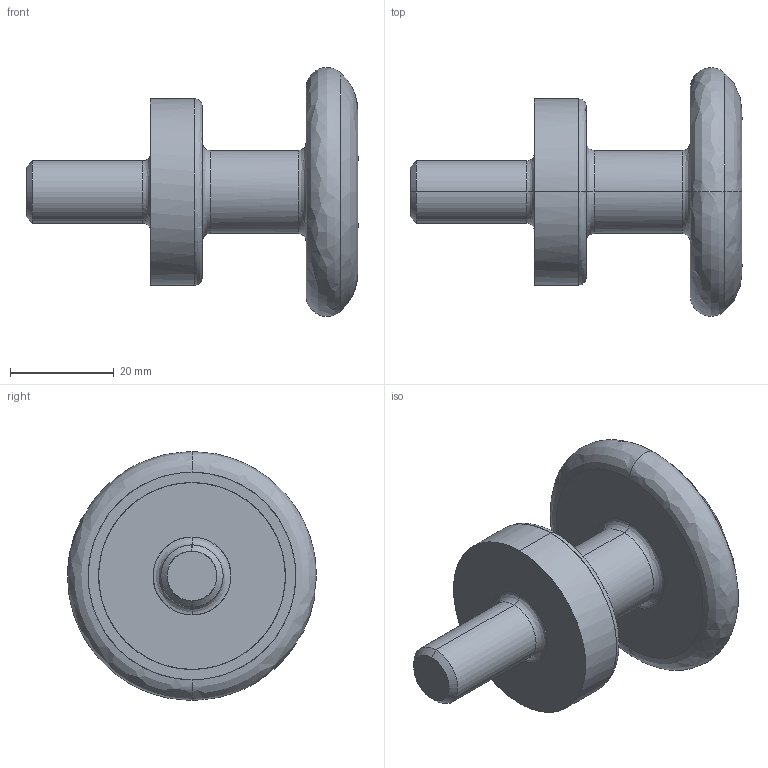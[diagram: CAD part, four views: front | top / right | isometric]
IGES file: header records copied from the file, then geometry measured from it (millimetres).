
Global section: file name: E:\UnigraphicsGraphicData\MISUMI_PRESS-PARTS\IGES\3d_chnl12_03546_r00.igs; native system: NX V5.0; preprocessor: UGS NX IGES V5.0; author: MISUMI; date: 20110105.160221; units: millimetre
Bounding box: 64 x 48 x 47.98 mm (x, y, z)
Surface area: 9062.8 mm2 (no closed solid volume)
Topology: 0 solids, 0 shells, 32 faces, 212 edges, 212 vertices
Faces by surface type: bspline 32
